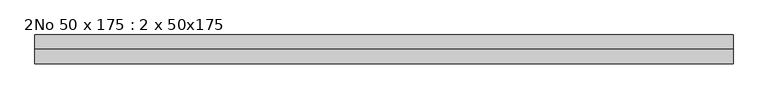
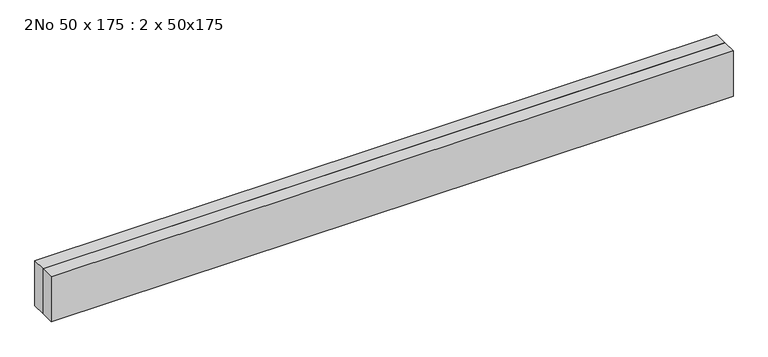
"""IFC4 building model written with IfcOpenShell, lengths in millimetres: beam geometry, 2No 50 x 175 : 2 x 50x175."""

import ifcopenshell
import ifcopenshell.guid

model = None  # the IFC model being written
_history = None  # IfcOwnerHistory: only IFC2X3 demands one
_inside = {}  # id of a spatial element -> (the spatial element, [elements in it])
_under = {}  # id of a project, library or spatial element -> (it, [spatial elements below it])
_declared = {}  # id of a project -> (the project, [libraries it declares])
_typed = {}  # id of a type object -> (the type object, [elements of that type])
_made_of = {}  # id of a material, layer set ... -> (it, [elements and type objects made of it])


def new_model(schema):
    """Start an empty IFC model of exactly this schema.

    Asked for "IFC4X3", IfcOpenShell would pick the latest addendum, in which some entities
    have other attributes; the version numbers below select the first issue.
    IFC2X3 requires an IfcOwnerHistory on every rooted entity: one is made here for all.
    """
    global model, _history
    if schema == "IFC4X3":
        model = ifcopenshell.file(schema_version=(4, 3, 0, 0))
    else:
        model = ifcopenshell.file(schema=schema)
    _inside.clear()
    _under.clear()
    _declared.clear()
    _typed.clear()
    _made_of.clear()
    _history = None
    if model.schema == "IFC2X3":
        org = make("IfcOrganization", Name="unknown")
        user = make(
            "IfcPersonAndOrganization",
            ThePerson=make("IfcPerson", FamilyName="unknown"),
            TheOrganization=org,
        )
        app = make(
            "IfcApplication",
            ApplicationDeveloper=org,
            Version="unknown",
            ApplicationFullName="unknown",
            ApplicationIdentifier="unknown",
        )
        _history = make(
            "IfcOwnerHistory",
            OwningUser=user,
            OwningApplication=app,
            ChangeAction="ADDED",
            CreationDate=0,
        )
    return model


def make(cls, **values):
    """One entity of the class cls with the attributes given. An attribute that is None is left unset."""
    return model.create_entity(
        cls, **{name: value for name, value in values.items() if value is not None}
    )


def rooted(cls, **values):
    """An entity with a GlobalId (a new one), such as an element, a storey or a relation."""
    return make(cls, GlobalId=ifcopenshell.guid.new(), OwnerHistory=_history, **values)


def si_unit(unit_type, name, prefix=None):
    """IfcSIUnit, for example si_unit("LENGTHUNIT", "METRE", prefix="MILLI")."""
    return make("IfcSIUnit", UnitType=unit_type, Prefix=prefix, Name=name)


def assignment(units):
    """IfcUnitAssignment: the units of a project."""
    return None if units is None else make("IfcUnitAssignment", Units=units)


def point(xyz):
    """IfcCartesianPoint."""
    return None if xyz is None else make("IfcCartesianPoint", Coordinates=xyz)


def direction(xyz):
    """IfcDirection."""
    return None if xyz is None else make("IfcDirection", DirectionRatios=xyz)


def frame(location, z_axis=None, x_axis=None):
    """IfcAxis2Placement3D, a coordinate frame: its origin and axes. An axis left out is left unset."""
    return make(
        "IfcAxis2Placement3D",
        Location=point(location),
        Axis=direction(z_axis),
        RefDirection=direction(x_axis),
    )


def origin():
    """The frame at (0, 0, 0) with its axes left unset."""
    return frame((0.0, 0.0, 0.0))


def place(relative_to, where):
    """IfcLocalPlacement: puts the frame where relative to a parent placement (None: the world)."""
    return make(
        "IfcLocalPlacement", PlacementRelTo=relative_to, RelativePlacement=where
    )


def context(
    kind, dimensions, precision=None, world=None, true_north=None, identifier=None
):
    """IfcGeometricRepresentationContext, for example the 3D "Model" context."""
    return make(
        "IfcGeometricRepresentationContext",
        ContextIdentifier=identifier,
        ContextType=kind,
        CoordinateSpaceDimension=dimensions,
        Precision=precision,
        WorldCoordinateSystem=world,
        TrueNorth=true_north,
    )


def project(units=None, contexts=None):
    """IfcProject with its units and contexts."""
    return rooted(
        "IfcProject",
        Name="project",
        RepresentationContexts=contexts,
        UnitsInContext=assignment(units),
    )


def spatial(cls, under=None, at=None, **own):
    """A site, building, storey or space (cls), placed at a placement, below another one or the project."""
    s = rooted(cls, ObjectPlacement=at, **own)
    if under is not None:
        _under.setdefault(under.id(), (under, []))[1].append(s)
    return s


def polyline(points):
    """IfcPolyline through the points."""
    return make("IfcPolyline", Points=[point(p) for p in points])


def outline(outer, holes=None, kind="AREA"):
    """IfcArbitraryClosedProfileDef: a profile drawn as a closed curve; with holes, ...WithVoids."""
    if holes is None:
        return make("IfcArbitraryClosedProfileDef", ProfileType=kind, OuterCurve=outer)
    return make(
        "IfcArbitraryProfileDefWithVoids",
        ProfileType=kind,
        OuterCurve=outer,
        InnerCurves=holes,
    )


def extrude(swept, where, along, depth):
    """IfcExtrudedAreaSolid: the profile swept, set in the frame where, extruded along a direction by depth."""
    return make(
        "IfcExtrudedAreaSolid",
        SweptArea=swept,
        Position=where,
        ExtrudedDirection=direction(along),
        Depth=depth,
    )


def shape(context_of_items, identifier, shape_type, items):
    """IfcShapeRepresentation: the items that make up one representation, for example the "Body"."""
    return make(
        "IfcShapeRepresentation",
        ContextOfItems=context_of_items,
        RepresentationIdentifier=identifier,
        RepresentationType=shape_type,
        Items=items,
    )


def source(mapping_origin, context_of_items, identifier, shape_type, items):
    """IfcRepresentationMap: a shape defined once, which mapped items show again and again."""
    return make(
        "IfcRepresentationMap",
        MappingOrigin=mapping_origin,
        MappedRepresentation=shape(context_of_items, identifier, shape_type, items),
    )


def transform(
    local_origin,
    x_axis=None,
    y_axis=None,
    z_axis=None,
    scale=None,
    scale2=None,
    scale3=None,
    uniform=True,
):
    """IfcCartesianTransformationOperator3D, or its non-uniform kind. x_axis, y_axis, z_axis: its Axis1, 2, 3."""
    if uniform:
        return make(
            "IfcCartesianTransformationOperator3D",
            Axis1=direction(x_axis),
            Axis2=direction(y_axis),
            LocalOrigin=point(local_origin),
            Scale=scale,
            Axis3=direction(z_axis),
        )
    return make(
        "IfcCartesianTransformationOperator3DnonUniform",
        Axis1=direction(x_axis),
        Axis2=direction(y_axis),
        LocalOrigin=point(local_origin),
        Scale=scale,
        Axis3=direction(z_axis),
        Scale2=scale2,
        Scale3=scale3,
    )


def mapped(mapping_source, mapping_target):
    """IfcMappedItem: shows the shape of a source again, moved by a transform."""
    return make(
        "IfcMappedItem", MappingSource=mapping_source, MappingTarget=mapping_target
    )


def made_of(thing, what):
    """Note that an element or type object is made of a material, layer set ...; save() writes the relation."""
    if what is not None:
        _made_of.setdefault(what.id(), (what, []))[1].append(thing)
    return thing


def element(
    cls,
    number,
    at=None,
    inside=None,
    cuts=None,
    type_object=None,
    material=None,
    context=None,
    identifier="Body",
    shape_type=None,
    held_by="IfcProductDefinitionShape",
    body=None,
    shapes=None,
    **own,
):
    """One element of the class cls, such as IfcWall. Its Tag is "e" and its number.

    at: its placement. inside: the storey or other place that contains it. cuts: it is an
    opening in that element (IfcRelVoidsElement). A single representation is given by context,
    identifier, shape_type and body (its items); several are given by shapes. held_by: the class
    of the entity that holds the representations. save() writes the other relations.
    """
    e = rooted(cls, Tag="e%d" % number, ObjectPlacement=at, **own)
    if body is not None:
        shapes = [shape(context, identifier, shape_type, body)]
    if shapes is not None:
        e.Representation = make(held_by, Representations=shapes)
    if inside is not None:
        _inside.setdefault(inside.id(), (inside, []))[1].append(e)
    if cuts is not None:
        rooted(
            "IfcRelVoidsElement", RelatingBuildingElement=cuts, RelatedOpeningElement=e
        )
    if type_object is not None:
        _typed.setdefault(type_object.id(), (type_object, []))[1].append(e)
    return made_of(e, material)


def aggregate(whole, parts):
    """IfcRelAggregates: a whole, such as a stair, and the parts it consists of."""
    return rooted("IfcRelAggregates", RelatingObject=whole, RelatedObjects=parts)


def save(model, path):
    """Write the relations noted so far, then the file.

    IfcRelAggregates (storeys below a building ...), IfcRelContainedInSpatialStructure (elements
    in a storey), IfcRelDefinesByType, IfcRelAssociatesMaterial and IfcRelDeclares: one each for
    every whole, place, type object, material and project.
    """
    for whole, parts in _under.values():
        aggregate(whole, parts)
    for where, things in _inside.values():
        rooted(
            "IfcRelContainedInSpatialStructure",
            RelatedElements=things,
            RelatingStructure=where,
        )
    for kind, things in _typed.values():
        rooted("IfcRelDefinesByType", RelatedObjects=things, RelatingType=kind)
    for what, things in _made_of.values():
        rooted("IfcRelAssociatesMaterial", RelatedObjects=things, RelatingMaterial=what)
    for by, libraries in _declared.values():
        rooted("IfcRelDeclares", RelatingContext=by, RelatedDefinitions=libraries)
    model.write(path)


def beam_2no_50_x_175_2_x_50x175_d0a0cd10(model_context):
    return source(origin(), model_context, "Body", "SweptSolid", [
        extrude(outline(polyline([(1349.7266, -25.0), (1349.7266, -75.0), (-1083.0000006, -75.0), (-1083.0000006, -25.0), (1349.7266, -25.0)])), frame((0.0, 0.0, -85.0), z_axis=(0.0, 0.0, 1.0), x_axis=(1.0, 0.0, 0.0)), (0.0, 0.0, 1.0), 170.0),
        extrude(outline(polyline([(1349.7266, 25.0), (1349.7266, -25.0), (-1083.0000006, -25.0), (-1083.0000006, 25.0), (1349.7266, 25.0)])), frame((0.0, 0.0, -85.0), z_axis=(0.0, 0.0, 1.0), x_axis=(1.0, 0.0, 0.0)), (0.0, 0.0, 1.0), 170.0),
    ])


if __name__ == "__main__":
    model = new_model("IFC4")
    model_context = context("Model", 3, world=origin())
    ifc_project = project(units=[si_unit("LENGTHUNIT", "METRE", prefix="MILLI")], contexts=[model_context])
    site = spatial("IfcSite", under=ifc_project)
    building = spatial("IfcBuilding", under=site)
    placement = place(None, origin())
    beam_2no_50_x_175_2_x_50x175_shape = beam_2no_50_x_175_2_x_50x175_d0a0cd10(model_context)
    element("IfcBeam", 1, ObjectType="2No 50 x 175 : 2 x 50x175", at=placement, inside=building, context=model_context, shape_type="MappedRepresentation", body=[
        mapped(beam_2no_50_x_175_2_x_50x175_shape, transform((0.0, 0.0, 0.0), x_axis=(1.0, 0.0, 0.0), y_axis=(0.0, 1.0, 0.0), z_axis=(0.0, 0.0, 1.0))),
    ])
    save(model, "model.ifc")
